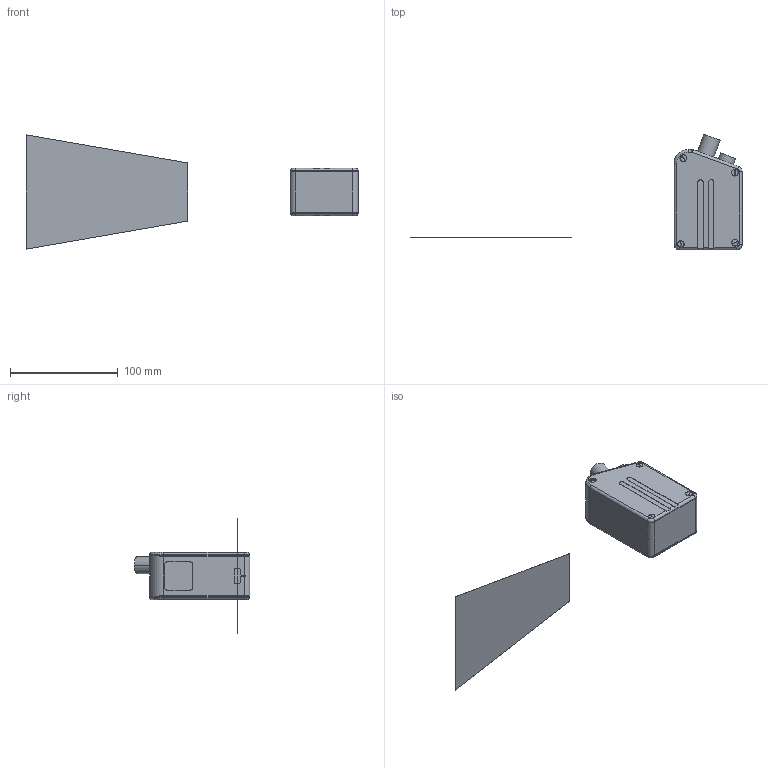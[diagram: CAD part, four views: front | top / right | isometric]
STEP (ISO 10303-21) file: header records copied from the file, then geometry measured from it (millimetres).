
FILE_DESCRIPTION (( 'STEP AP214' ), '1' );
FILE_NAME ('ÐÔ 627.95_150.000_ÑÁ ñêàíåð äëÿ ñàéòà.STEP', '2019-07-02T08:04:03', ( 'test' ), ( 'Ref' ), 'SwSTEP 2.0', 'SolidWorks 2015', '' );
FILE_SCHEMA (( 'AUTOMOTIVE_DESIGN' ));
Length unit declared in the file: millimetre
Products named in the file (13): 栺樏鋋 14-6-2; Âèíò_Ì3x8 â ïîòàé; Êðûøêà 627 â5 çåðêàëüíàÿ ïîñëåäíÿÿ; ÐÔ 627.95_150.000_ÑÁ ñêàíåð äëÿ ñàéòà; 砐錼 睯儰擯闃蠂 95-150; 性 625.75_ 袜觌彘赅_觏铒觇; 栺樏鋋 26-26-2 擤; Êðûøêà 627 - â5 êðûøêà áîêîâàÿ ïîñëåäíÿÿ 1; RF627_80_017(1) ýëåêòðîíèêà; Ðåçüáîâàÿ âòóëêà Ì6-6; Âèíò_Ì2õ4; Âèíò_Ì3x10 â ïîòàé; Êîðïóñ 627 - 75-50 ñ ïàçîì ïîñëåäíåå
Assembly tree (24 placements, depth 2):
  ÐÔ 627.95_150.000_ÑÁ ñêàíåð äëÿ ñàéòà
    Êîðïóñ 627 - 75-50 ñ ïàçîì ïîñëåäíåå
    Êðûøêà 627 - â5 êðûøêà áîêîâàÿ ïîñëåäíÿÿ 1
    Êðûøêà 627 â5 çåðêàëüíàÿ ïîñëåäíÿÿ
    Ðåçüáîâàÿ âòóëêà Ì6-6  x4
    性 625.75_ 袜觌彘赅_觏铒觇
    Âèíò_Ì2õ4  x4
    Âèíò_Ì3x10 â ïîòàé  x6
    栺樏鋋 14-6-2
    栺樏鋋 26-26-2 擤
    Âèíò_Ì3x8 â ïîòàé  x2
    RF627_80_017(1) ýëåêòðîíèêà
    砐錼 睯儰擯闃蠂 95-150
Bounding box: 308 x 107.19 x 106 mm (x, y, z)
Volume: 71636.5 mm3; surface area: 84875.8 mm2
Topology: 25 solids, 30 shells, 1106 faces, 2927 edges, 1900 vertices
Faces by surface type: plane 580, cylinder 300, cone 112, bspline 84, torus 30
Entity records: 33943 total; most frequent: CARTESIAN_POINT 9692, ORIENTED_EDGE 4758, DIRECTION 4505, EDGE_CURVE 2401, VERTEX_POINT 1576, LINE 1571, VECTOR 1571, AXIS2_PLACEMENT_3D 1467
